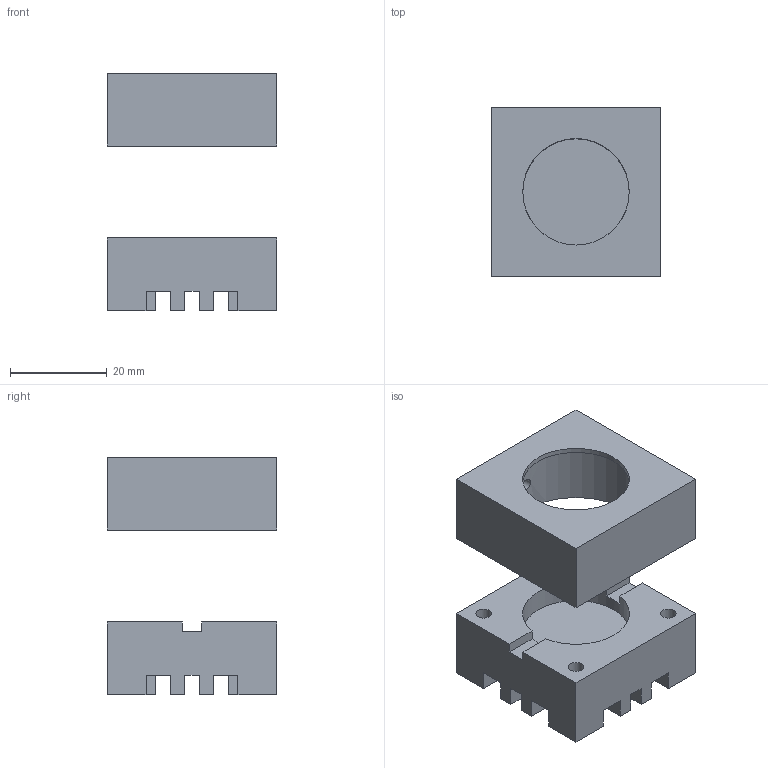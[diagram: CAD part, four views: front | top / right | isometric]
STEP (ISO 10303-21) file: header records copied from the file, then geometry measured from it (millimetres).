
FILE_DESCRIPTION(/* description */ (''),/* implementation_level */ '2;1');
FILE_NAME(/* name */ '/Users/j0hn/Desktop/Steps/LCube v1.0.step',/* time_stamp */ '2016-09-20T01:43:38+02:00',/* author */ (''),/* organization */ (''),/* preprocessor_version */ 'ST-DEVELOPER v16.5',/* originating_system */ 'Autodesk Translation Framework v5.1.0.3141',/* authorisation */ '');
FILE_SCHEMA (('AUTOMOTIVE_DESIGN { 1 0 10303 214 3 1 1 }'));
Length unit declared in the file: centimetre
Products named in the file (1): Cube1 v4
Bounding box: 35 x 35 x 49 mm (x, y, z)
Volume: 21219 mm3; surface area: 11878.6 mm2
Topology: 2 solids, 2 shells, 93 faces, 241 edges, 162 vertices
Faces by surface type: plane 75, cylinder 18
Full cylindrical faces by diameter (mm): 2.5 x7, 3.2 x4, 6.5 x4, 22 x2, 29.2 x1
Entity records: 2752 total; most frequent: CARTESIAN_POINT 497, DIRECTION 440, ORIENTED_EDGE 430, EDGE_CURVE 215, LINE 176, VECTOR 176, VERTEX_POINT 155, EDGE_LOOP 134
